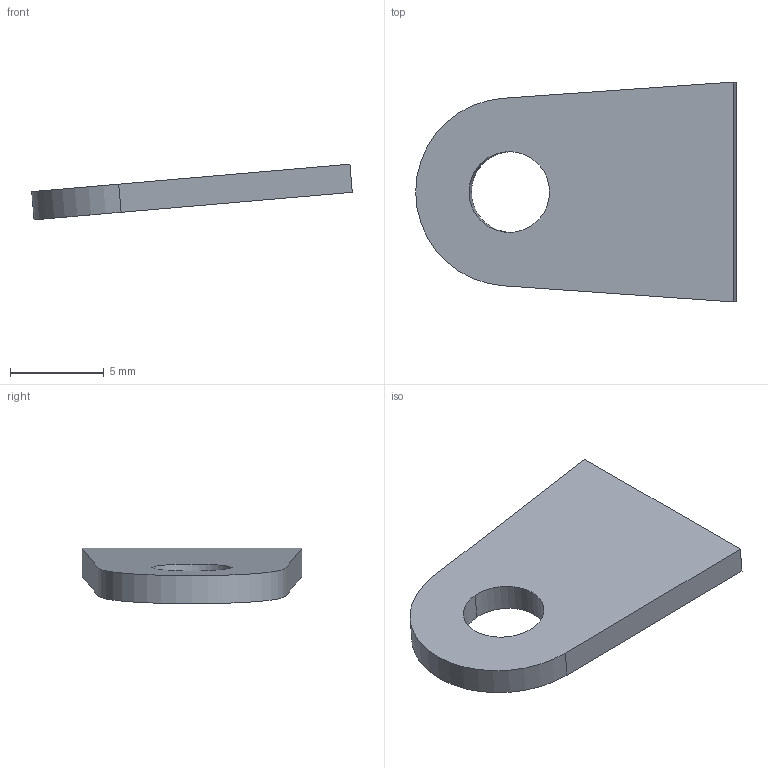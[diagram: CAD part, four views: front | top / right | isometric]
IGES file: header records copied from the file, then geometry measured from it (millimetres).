
Start section: START RECORD GO HERE.
Global section: file name: 20M_FR_A0800b (chape fond plat cockpit avant).igs; native system: IBM CATIA IGES - CATIA Version 5 Release 19 ; preprocessor: CATIA Version 5 Release 19 ; author: Martin Kawczynski; organization: DESKTOP-UDLM1FC; date: 20200123.163420; units: millimetre
Bounding box: 17.07 x 11.7 x 2.96 mm (x, y, z)
Surface area: 407.7 mm2 (no closed solid volume)
Topology: 0 solids, 0 shells, 8 faces, 36 edges, 36 vertices
Faces by surface type: plane 5, revolution 3
